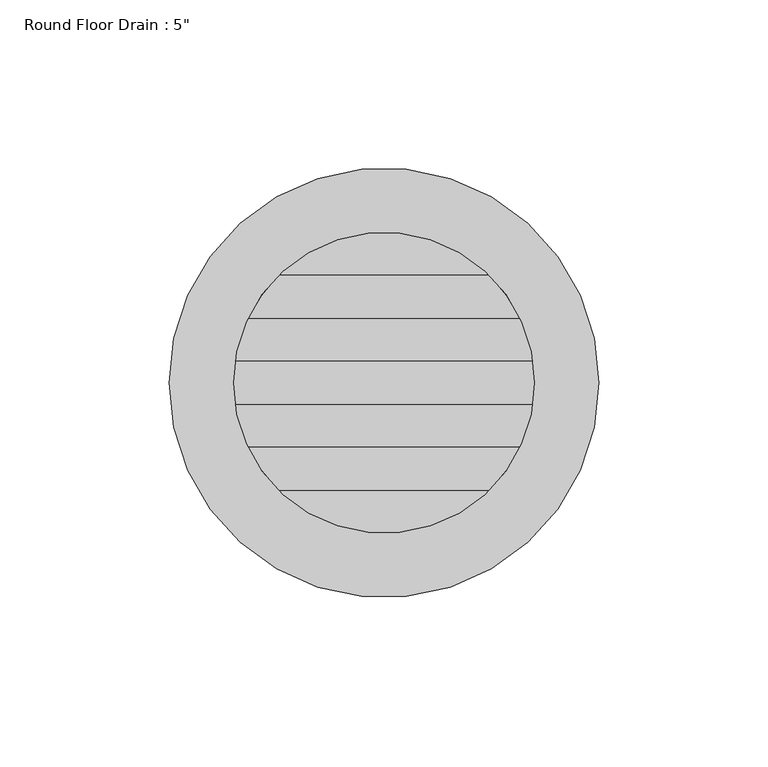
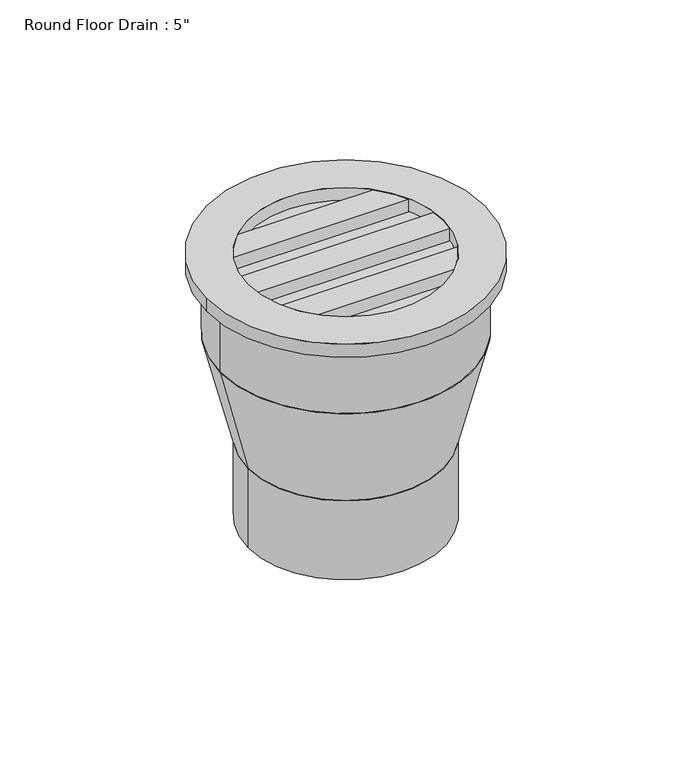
"""IFC4 building model written with IfcOpenShell, lengths in millimetres: flow terminal geometry."""

import ifcopenshell
import ifcopenshell.guid

model = None  # the IFC model being written
_history = None  # IfcOwnerHistory: only IFC2X3 demands one
_inside = {}  # id of a spatial element -> (the spatial element, [elements in it])
_under = {}  # id of a project, library or spatial element -> (it, [spatial elements below it])
_declared = {}  # id of a project -> (the project, [libraries it declares])
_typed = {}  # id of a type object -> (the type object, [elements of that type])
_made_of = {}  # id of a material, layer set ... -> (it, [elements and type objects made of it])


def new_model(schema):
    """Start an empty IFC model of exactly this schema.

    Asked for "IFC4X3", IfcOpenShell would pick the latest addendum, in which some entities
    have other attributes; the version numbers below select the first issue.
    IFC2X3 requires an IfcOwnerHistory on every rooted entity: one is made here for all.
    """
    global model, _history
    if schema == "IFC4X3":
        model = ifcopenshell.file(schema_version=(4, 3, 0, 0))
    else:
        model = ifcopenshell.file(schema=schema)
    _inside.clear()
    _under.clear()
    _declared.clear()
    _typed.clear()
    _made_of.clear()
    _history = None
    if model.schema == "IFC2X3":
        org = make("IfcOrganization", Name="unknown")
        user = make(
            "IfcPersonAndOrganization",
            ThePerson=make("IfcPerson", FamilyName="unknown"),
            TheOrganization=org,
        )
        app = make(
            "IfcApplication",
            ApplicationDeveloper=org,
            Version="unknown",
            ApplicationFullName="unknown",
            ApplicationIdentifier="unknown",
        )
        _history = make(
            "IfcOwnerHistory",
            OwningUser=user,
            OwningApplication=app,
            ChangeAction="ADDED",
            CreationDate=0,
        )
    return model


def make(cls, **values):
    """One entity of the class cls with the attributes given. An attribute that is None is left unset."""
    return model.create_entity(
        cls, **{name: value for name, value in values.items() if value is not None}
    )


def rooted(cls, **values):
    """An entity with a GlobalId (a new one), such as an element, a storey or a relation."""
    return make(cls, GlobalId=ifcopenshell.guid.new(), OwnerHistory=_history, **values)


def si_unit(unit_type, name, prefix=None):
    """IfcSIUnit, for example si_unit("LENGTHUNIT", "METRE", prefix="MILLI")."""
    return make("IfcSIUnit", UnitType=unit_type, Prefix=prefix, Name=name)


def assignment(units):
    """IfcUnitAssignment: the units of a project."""
    return None if units is None else make("IfcUnitAssignment", Units=units)


def point(xyz):
    """IfcCartesianPoint."""
    return None if xyz is None else make("IfcCartesianPoint", Coordinates=xyz)


def direction(xyz):
    """IfcDirection."""
    return None if xyz is None else make("IfcDirection", DirectionRatios=xyz)


def frame(location, z_axis=None, x_axis=None):
    """IfcAxis2Placement3D, a coordinate frame: its origin and axes. An axis left out is left unset."""
    return make(
        "IfcAxis2Placement3D",
        Location=point(location),
        Axis=direction(z_axis),
        RefDirection=direction(x_axis),
    )


def frame_2d(location, x_axis=None):
    """IfcAxis2Placement2D, a coordinate frame in the plane: its origin and x axis."""
    return make(
        "IfcAxis2Placement2D", Location=point(location), RefDirection=direction(x_axis)
    )


def origin():
    """The frame at (0, 0, 0) with its axes left unset."""
    return frame((0.0, 0.0, 0.0))


def origin_with_axes():
    """The frame at (0, 0, 0) with the z axis (0, 0, 1) and the x axis (1, 0, 0) written out."""
    return frame((0.0, 0.0, 0.0), z_axis=(0.0, 0.0, 1.0), x_axis=(1.0, 0.0, 0.0))


def origin_2d():
    """The frame at (0, 0) in the plane with its x axis left unset."""
    return frame_2d((0.0, 0.0))


def place(relative_to, where):
    """IfcLocalPlacement: puts the frame where relative to a parent placement (None: the world)."""
    return make(
        "IfcLocalPlacement", PlacementRelTo=relative_to, RelativePlacement=where
    )


def context(
    kind, dimensions, precision=None, world=None, true_north=None, identifier=None
):
    """IfcGeometricRepresentationContext, for example the 3D "Model" context."""
    return make(
        "IfcGeometricRepresentationContext",
        ContextIdentifier=identifier,
        ContextType=kind,
        CoordinateSpaceDimension=dimensions,
        Precision=precision,
        WorldCoordinateSystem=world,
        TrueNorth=true_north,
    )


def project(units=None, contexts=None):
    """IfcProject with its units and contexts."""
    return rooted(
        "IfcProject",
        Name="project",
        RepresentationContexts=contexts,
        UnitsInContext=assignment(units),
    )


def spatial(cls, under=None, at=None, **own):
    """A site, building, storey or space (cls), placed at a placement, below another one or the project."""
    s = rooted(cls, ObjectPlacement=at, **own)
    if under is not None:
        _under.setdefault(under.id(), (under, []))[1].append(s)
    return s


def polyline(points):
    """IfcPolyline through the points."""
    return make("IfcPolyline", Points=[point(p) for p in points])


def circle_curve(where, radius):
    """IfcCircle in the frame where."""
    return make("IfcCircle", Position=where, Radius=radius)


def trimmed(basis, trim1, trim2, sense, master):
    """IfcTrimmedCurve: the piece of a basis curve between two trims."""
    return make(
        "IfcTrimmedCurve",
        BasisCurve=basis,
        Trim1=trim1,
        Trim2=trim2,
        SenseAgreement=sense,
        MasterRepresentation=master,
    )


def segment(curve, same_sense, transition):
    """IfcCompositeCurveSegment."""
    return make(
        "IfcCompositeCurveSegment",
        Transition=transition,
        SameSense=same_sense,
        ParentCurve=curve,
    )


def composite_curve(segments, self_intersect=None):
    """IfcCompositeCurve: segments joined end to end."""
    return make("IfcCompositeCurve", Segments=segments, SelfIntersect=self_intersect)


def outline(outer, holes=None, kind="AREA"):
    """IfcArbitraryClosedProfileDef: a profile drawn as a closed curve; with holes, ...WithVoids."""
    if holes is None:
        return make("IfcArbitraryClosedProfileDef", ProfileType=kind, OuterCurve=outer)
    return make(
        "IfcArbitraryProfileDefWithVoids",
        ProfileType=kind,
        OuterCurve=outer,
        InnerCurves=holes,
    )


def extrude(swept, where, along, depth):
    """IfcExtrudedAreaSolid: the profile swept, set in the frame where, extruded along a direction by depth."""
    return make(
        "IfcExtrudedAreaSolid",
        SweptArea=swept,
        Position=where,
        ExtrudedDirection=direction(along),
        Depth=depth,
    )


def shape(context_of_items, identifier, shape_type, items):
    """IfcShapeRepresentation: the items that make up one representation, for example the "Body"."""
    return make(
        "IfcShapeRepresentation",
        ContextOfItems=context_of_items,
        RepresentationIdentifier=identifier,
        RepresentationType=shape_type,
        Items=items,
    )


def source(mapping_origin, context_of_items, identifier, shape_type, items):
    """IfcRepresentationMap: a shape defined once, which mapped items show again and again."""
    return make(
        "IfcRepresentationMap",
        MappingOrigin=mapping_origin,
        MappedRepresentation=shape(context_of_items, identifier, shape_type, items),
    )


def transform(
    local_origin,
    x_axis=None,
    y_axis=None,
    z_axis=None,
    scale=None,
    scale2=None,
    scale3=None,
    uniform=True,
):
    """IfcCartesianTransformationOperator3D, or its non-uniform kind. x_axis, y_axis, z_axis: its Axis1, 2, 3."""
    if uniform:
        return make(
            "IfcCartesianTransformationOperator3D",
            Axis1=direction(x_axis),
            Axis2=direction(y_axis),
            LocalOrigin=point(local_origin),
            Scale=scale,
            Axis3=direction(z_axis),
        )
    return make(
        "IfcCartesianTransformationOperator3DnonUniform",
        Axis1=direction(x_axis),
        Axis2=direction(y_axis),
        LocalOrigin=point(local_origin),
        Scale=scale,
        Axis3=direction(z_axis),
        Scale2=scale2,
        Scale3=scale3,
    )


def mapped(mapping_source, mapping_target):
    """IfcMappedItem: shows the shape of a source again, moved by a transform."""
    return make(
        "IfcMappedItem", MappingSource=mapping_source, MappingTarget=mapping_target
    )


def made_of(thing, what):
    """Note that an element or type object is made of a material, layer set ...; save() writes the relation."""
    if what is not None:
        _made_of.setdefault(what.id(), (what, []))[1].append(thing)
    return thing


def element(
    cls,
    number,
    at=None,
    inside=None,
    cuts=None,
    type_object=None,
    material=None,
    context=None,
    identifier="Body",
    shape_type=None,
    held_by="IfcProductDefinitionShape",
    body=None,
    shapes=None,
    **own,
):
    """One element of the class cls, such as IfcWall. Its Tag is "e" and its number.

    at: its placement. inside: the storey or other place that contains it. cuts: it is an
    opening in that element (IfcRelVoidsElement). A single representation is given by context,
    identifier, shape_type and body (its items); several are given by shapes. held_by: the class
    of the entity that holds the representations. save() writes the other relations.
    """
    e = rooted(cls, Tag="e%d" % number, ObjectPlacement=at, **own)
    if body is not None:
        shapes = [shape(context, identifier, shape_type, body)]
    if shapes is not None:
        e.Representation = make(held_by, Representations=shapes)
    if inside is not None:
        _inside.setdefault(inside.id(), (inside, []))[1].append(e)
    if cuts is not None:
        rooted(
            "IfcRelVoidsElement", RelatingBuildingElement=cuts, RelatedOpeningElement=e
        )
    if type_object is not None:
        _typed.setdefault(type_object.id(), (type_object, []))[1].append(e)
    return made_of(e, material)


def aggregate(whole, parts):
    """IfcRelAggregates: a whole, such as a stair, and the parts it consists of."""
    return rooted("IfcRelAggregates", RelatingObject=whole, RelatedObjects=parts)


def save(model, path):
    """Write the relations noted so far, then the file.

    IfcRelAggregates (storeys below a building ...), IfcRelContainedInSpatialStructure (elements
    in a storey), IfcRelDefinesByType, IfcRelAssociatesMaterial and IfcRelDeclares: one each for
    every whole, place, type object, material and project.
    """
    for whole, parts in _under.values():
        aggregate(whole, parts)
    for where, things in _inside.values():
        rooted(
            "IfcRelContainedInSpatialStructure",
            RelatedElements=things,
            RelatingStructure=where,
        )
    for kind, things in _typed.values():
        rooted("IfcRelDefinesByType", RelatedObjects=things, RelatingType=kind)
    for what, things in _made_of.values():
        rooted("IfcRelAssociatesMaterial", RelatedObjects=things, RelatingMaterial=what)
    for by, libraries in _declared.values():
        rooted("IfcRelDeclares", RelatingContext=by, RelatedDefinitions=libraries)
    model.write(path)


def plane_surface(at):
    """IfcPlane: the flat surface through the origin of the frame at, square to its z axis."""
    return make("IfcPlane", Position=at)


def revolved_surface(curve, axis_point, axis_direction):
    """IfcSurfaceOfRevolution: the curve turned about the line through axis_point along axis_direction."""
    return make(
        "IfcSurfaceOfRevolution",
        SweptCurve=make("IfcArbitraryOpenProfileDef", ProfileType="CURVE", Curve=curve),
        AxisPosition=make("IfcAxis1Placement", Location=point(axis_point), Axis=direction(axis_direction)),
    )


def advanced_brep(points, edges, surfaces, faces):
    """IfcAdvancedBrep: a solid bounded by faces that lie on surfaces and meet in shared edges.

    An edge is (start, end): straight between two places in points (the first is 0);
    or (start, end, curve); or (start, end, curve, False) where it runs against its curve.
    A face is (place in surfaces, loops), or (place, loops, False) where it looks against
    its surface's normal. A loop lists edges by number (the first is 1), with a minus sign
    where the edge is run from its end to its start. The first loop is the outer one.
    """
    corners = [point(p) for p in points]
    vertices = [make("IfcVertexPoint", VertexGeometry=c) for c in corners]
    made = []
    for start, end, *more in edges:
        made.append(
            make(
                "IfcEdgeCurve",
                EdgeStart=vertices[start],
                EdgeEnd=vertices[end],
                EdgeGeometry=more[0] if more else make("IfcPolyline", Points=[corners[start], corners[end]]),
                SameSense=more[1] if len(more) > 1 else True,
            )
        )
    hull = []
    for where, loops, *sense in faces:
        bounds = []
        for j, loop in enumerate(loops):
            ring = [make("IfcOrientedEdge", EdgeElement=made[abs(k) - 1], Orientation=k > 0) for k in loop]
            bounds.append(
                make(
                    "IfcFaceOuterBound" if j == 0 else "IfcFaceBound",
                    Bound=make("IfcEdgeLoop", EdgeList=ring),
                    Orientation=True,
                )
            )
        hull.append(make("IfcAdvancedFace", Bounds=bounds, FaceSurface=surfaces[where], SameSense=sense[0] if sense else True))
    return make("IfcAdvancedBrep", Outer=make("IfcClosedShell", CfsFaces=hull))


def flow_terminal_7a061d0c(model_context):
    return source(origin(), model_context, "Body", "SolidModel", [
        extrude(outline(composite_curve([segment(trimmed(circle_curve(origin_2d(), 44.45), [point((-44.45, 0.0))], [point((44.45, 0.0))], False, "CARTESIAN"), True, "CONTINUOUS"), segment(trimmed(circle_curve(origin_2d(), 44.45), [point((44.45, 0.0))], [point((-44.45, 0.0))], False, "CARTESIAN"), True, "CONTINUOUS")], self_intersect=False)), frame((0.0, 0.0, -120.65), z_axis=(0.0, 0.0, 1.0), x_axis=(1.0, 0.0, 0.0)), (0.0, 0.0, 1.0), 38.1),
        advanced_brep(
        [(-44.45, 0.0, -82.55), (44.45, 0.0, -82.55), (-57.15, 0.0, -31.75), (57.15, 0.0, -31.75)],
        [
            (0, 1, circle_curve(frame((0.0, 0.0, -82.55), z_axis=(0.0, 0.0, -1.0), x_axis=(-1.0, 0.0, 0.0)), 44.45)),
            (1, 0, circle_curve(frame((0.0, 0.0, -82.55), z_axis=(0.0, 0.0, -1.0), x_axis=(1.0, 0.0, 0.0)), 44.45)),
            (2, 3, circle_curve(frame((0.0, 0.0, -31.75), z_axis=(0.0, 0.0, 1.0), x_axis=(1.0, 0.0, 0.0)), 57.15)),
            (3, 2, circle_curve(frame((0.0, 0.0, -31.75), z_axis=(0.0, 0.0, 1.0), x_axis=(-1.0, 0.0, 0.0)), 57.15)),
            (3, 1),
            (0, 2),
        ],
        [
            plane_surface(frame((0.0, 0.0, -82.55), z_axis=(0.0, 0.0, -1.0), x_axis=(0.0, -1.0, 0.0))),
            plane_surface(frame((0.0, 0.0, -31.75), z_axis=(0.0, 0.0, 1.0), x_axis=(0.0, -1.0, 0.0))),
            revolved_surface(polyline([(-44.45, 0.0, -82.55000000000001), (-57.15, 0.0, -31.75)]), (0.0, 0.0, -260.35), (0.0, 0.0, 1.0)),
            revolved_surface(polyline([(44.45, 0.0, -82.55000000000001), (57.15, 0.0, -31.75)]), (0.0, 0.0, -260.35), (0.0, 0.0, 1.0)),
        ],
        [
            (0, [[1, 2]]),
            (1, [[3, 4]]),
            (2, [[-4, 5, -1, 6]]),
            (3, [[-3, -6, -2, -5]]),
        ],
    ),
        extrude(outline(composite_curve([segment(trimmed(circle_curve(origin_2d(), 57.15), [point((-57.15, 0.0))], [point((57.15, 0.0))], False, "CARTESIAN"), True, "CONTINUOUS"), segment(trimmed(circle_curve(origin_2d(), 57.15), [point((57.15, 0.0))], [point((-57.15, 0.0))], False, "CARTESIAN"), True, "CONTINUOUS")], self_intersect=False)), frame((0.0, 0.0, -31.75), z_axis=(0.0, 0.0, 1.0), x_axis=(1.0, 0.0, 0.0)), (0.0, 0.0, 1.0), 31.75),
        extrude(outline(composite_curve([segment(trimmed(circle_curve(origin_2d(), 63.5), [point((-63.5, 0.0))], [point((63.5, 0.0))], False, "CARTESIAN"), True, "CONTINUOUS"), segment(trimmed(circle_curve(origin_2d(), 63.5), [point((63.5, 0.0))], [point((-63.5, 0.0))], False, "CARTESIAN"), True, "CONTINUOUS")], self_intersect=False), holes=[composite_curve([segment(trimmed(circle_curve(origin_2d(), 44.45), [point((-44.45, 0.0))], [point((44.45, 0.0))], True, "CARTESIAN"), True, "CONTINUOUS"), segment(trimmed(circle_curve(origin_2d(), 44.45), [point((44.45, 0.0))], [point((-44.45, 0.0))], True, "CARTESIAN"), True, "CONTINUOUS")], self_intersect=False)]), origin_with_axes(), (0.0, 0.0, 1.0), 6.35),
        extrude(outline(composite_curve([segment(polyline([(31.1085197, -31.75), (-31.1085197, -31.75)]), True, "CONTINUOUS"), segment(trimmed(circle_curve(origin_2d(), 44.45), [point((-31.1085197, -31.75))], [point((-40.1609263, -19.05))], False, "CARTESIAN"), True, "CONTINUOUS"), segment(polyline([(-40.1609263, -19.05), (40.1609263, -19.05)]), True, "CONTINUOUS"), segment(trimmed(circle_curve(origin_2d(), 44.45), [point((40.1609263, -19.05))], [point((31.1085197, -31.75))], False, "CARTESIAN"), True, "CONTINUOUS")], self_intersect=False)), origin_with_axes(), (0.0, 0.0, 1.0), 6.35),
        extrude(outline(composite_curve([segment(polyline([(-31.1085197, 31.75), (31.1085197, 31.75)]), True, "CONTINUOUS"), segment(trimmed(circle_curve(origin_2d(), 44.45), [point((31.1085197, 31.75))], [point((40.1609263, 19.05))], False, "CARTESIAN"), True, "CONTINUOUS"), segment(polyline([(40.1609263, 19.05), (-40.1609263, 19.05)]), True, "CONTINUOUS"), segment(trimmed(circle_curve(origin_2d(), 44.45), [point((-40.1609263, 19.05))], [point((-31.1085197, 31.75))], False, "CARTESIAN"), True, "CONTINUOUS")], self_intersect=False)), origin_with_axes(), (0.0, 0.0, 1.0), 6.35),
        extrude(outline(composite_curve([segment(trimmed(circle_curve(origin_2d(), 44.45), [point((44.45, 0.0))], [point((43.9940905, -6.35))], False, "CARTESIAN"), True, "CONTINUOUS"), segment(polyline([(43.9940905, -6.35), (-43.9940905, -6.35)]), True, "CONTINUOUS"), segment(trimmed(circle_curve(origin_2d(), 44.45), [point((-43.9940905, -6.35))], [point((-44.45, 0.0))], False, "CARTESIAN"), True, "CONTINUOUS"), segment(trimmed(circle_curve(origin_2d(), 44.45), [point((-44.45, 0.0))], [point((-43.9940905, 6.35))], False, "CARTESIAN"), True, "CONTINUOUS"), segment(polyline([(-43.9940905, 6.35), (43.9940905, 6.35)]), True, "CONTINUOUS"), segment(trimmed(circle_curve(origin_2d(), 44.45), [point((43.9940905, 6.35))], [point((44.45, 0.0))], False, "CARTESIAN"), True, "CONTINUOUS")], self_intersect=False)), origin_with_axes(), (0.0, 0.0, 1.0), 6.35),
    ])


if __name__ == "__main__":
    model = new_model("IFC4")
    model_context = context("Model", 3, world=origin())
    ifc_project = project(units=[si_unit("LENGTHUNIT", "METRE", prefix="MILLI")], contexts=[model_context])
    site = spatial("IfcSite", under=ifc_project)
    building = spatial("IfcBuilding", under=site)
    placement = place(None, origin())
    flow_terminal_shape = flow_terminal_7a061d0c(model_context)
    element("IfcFlowTerminal", 1, ObjectType="Round Floor Drain : 5\"", at=placement, inside=building, context=model_context, shape_type="MappedRepresentation", body=[
        mapped(flow_terminal_shape, transform((0.0, 0.0, 0.0), x_axis=(1.0, 0.0, 0.0), y_axis=(0.0, 1.0, 0.0), z_axis=(0.0, 0.0, 1.0))),
    ])
    save(model, "model.ifc")
